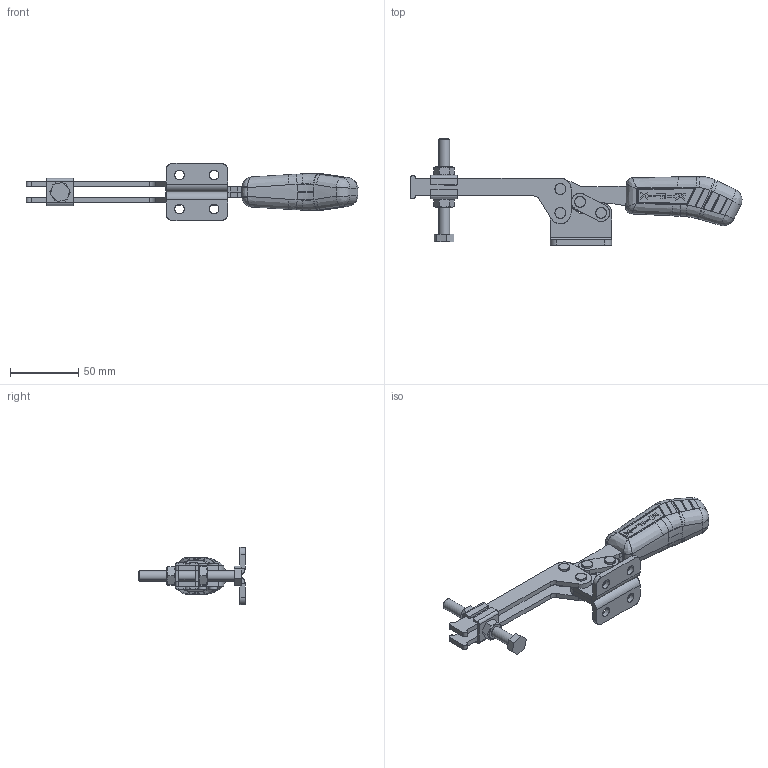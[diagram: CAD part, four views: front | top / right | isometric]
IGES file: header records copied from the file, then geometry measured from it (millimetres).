
Start section: SolidWorks IGES file using analytic representation for surfaces
Global section: file name: C:\Projetos\Grampos\KF-521\KF-521 DL\KF-521 DL.IGS; native system: SolidWorks 2013; preprocessor: SolidWorks 2013; author: Ricardo; date: 140822.163537; units: millimetre
Bounding box: 243.11 x 77.79 x 41.92 mm (x, y, z)
Surface area: 48809.9 mm2 (no closed solid volume)
Topology: 0 solids, 0 shells, 626 faces, 7259 edges, 7246 vertices
Faces by surface type: bspline 401, revolution 225
